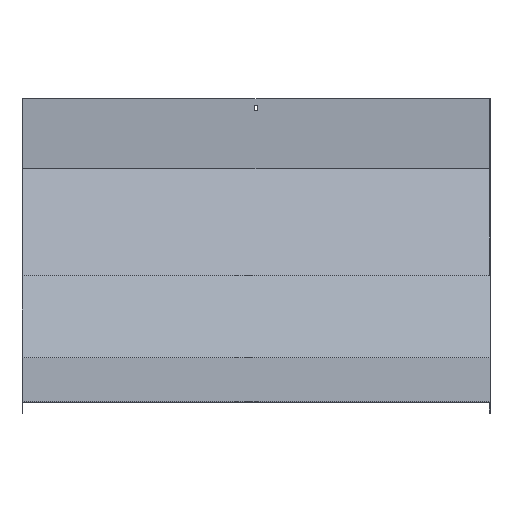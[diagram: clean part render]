
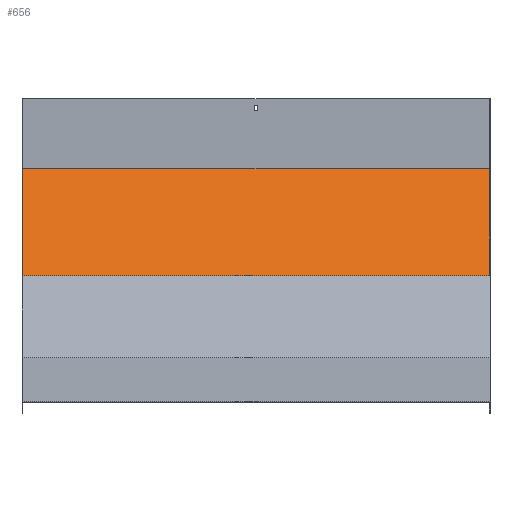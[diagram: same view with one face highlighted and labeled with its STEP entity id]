
A CAD part, top view. The second image highlights one B-rep face of the part: STEP entity #656.
In plain terms, the highlighted planar face has unit normal (0, 0.383, 0.924).
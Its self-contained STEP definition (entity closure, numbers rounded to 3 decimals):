
#5 = ORIENTED_EDGE ( 'NONE', *, *, #979, .T. ) ;
#28 = EDGE_CURVE ( 'NONE', #553, #1104, #917, .T. ) ;
#42 = CARTESIAN_POINT ( 'NONE',  ( 401.5, 216.868, -444.566 ) ) ;
#129 = VECTOR ( 'NONE', #216, 1000. ) ;
#143 = ORIENTED_EDGE ( 'NONE', *, *, #358, .F. ) ;
#160 = DIRECTION ( 'NONE',  ( -1., 0., 0. ) ) ;
#190 = AXIS2_PLACEMENT_3D ( 'NONE', #215, #750, #842 ) ;
#203 = VECTOR ( 'NONE', #593, 1000. ) ;
#215 = CARTESIAN_POINT ( 'NONE',  ( 401.5, 216.868, -444.566 ) ) ;
#216 = DIRECTION ( 'NONE',  ( -1., 0., 0. ) ) ;
#234 = VERTEX_POINT ( 'NONE', #937 ) ;
#253 = VERTEX_POINT ( 'NONE', #331 ) ;
#260 = CARTESIAN_POINT ( 'NONE',  ( 401.5, 216.868, -444.566 ) ) ;
#274 = ORIENTED_EDGE ( 'NONE', *, *, #28, .T. ) ;
#331 = CARTESIAN_POINT ( 'NONE',  ( -401.5, 216.868, -444.566 ) ) ;
#358 = EDGE_CURVE ( 'NONE', #553, #253, #991, .T. ) ;
#389 = DIRECTION ( 'NONE',  ( 0., 0.924, -0.383 ) ) ;
#392 = VECTOR ( 'NONE', #389, 1000. ) ;
#405 = EDGE_CURVE ( 'NONE', #253, #234, #847, .T. ) ;
#445 = EDGE_LOOP ( 'NONE', ( #479, #143, #274, #5 ) ) ;
#473 = CARTESIAN_POINT ( 'NONE',  ( 401.5, 216.868, -444.566 ) ) ;
#479 = ORIENTED_EDGE ( 'NONE', *, *, #405, .F. ) ;
#519 = CARTESIAN_POINT ( 'NONE',  ( -401.5, 216.868, -444.566 ) ) ;
#553 = VERTEX_POINT ( 'NONE', #260 ) ;
#593 = DIRECTION ( 'NONE',  ( 0., 0.924, -0.383 ) ) ;
#656 = ADVANCED_FACE ( 'NONE', ( #1075 ), #990, .T. ) ;
#750 = DIRECTION ( 'NONE',  ( 0., 0.383, 0.924 ) ) ;
#842 = DIRECTION ( 'NONE',  ( 0., -0.924, 0.383 ) ) ;
#847 = LINE ( 'NONE', #519, #203 ) ;
#859 = CARTESIAN_POINT ( 'NONE',  ( 401.5, 400.72, -520.72 ) ) ;
#865 = VECTOR ( 'NONE', #160, 1000. ) ;
#917 = LINE ( 'NONE', #42, #392 ) ;
#937 = CARTESIAN_POINT ( 'NONE',  ( -401.5, 400.72, -520.72 ) ) ;
#961 = CARTESIAN_POINT ( 'NONE',  ( 401.5, 400.72, -520.72 ) ) ;
#979 = EDGE_CURVE ( 'NONE', #1104, #234, #1097, .T. ) ;
#990 = PLANE ( 'NONE',  #190 ) ;
#991 = LINE ( 'NONE', #473, #129 ) ;
#1075 = FACE_OUTER_BOUND ( 'NONE', #445, .T. ) ;
#1097 = LINE ( 'NONE', #859, #865 ) ;
#1104 = VERTEX_POINT ( 'NONE', #961 ) ;
